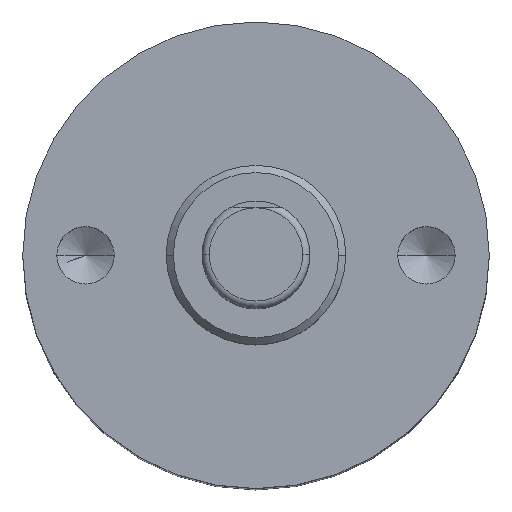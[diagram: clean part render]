
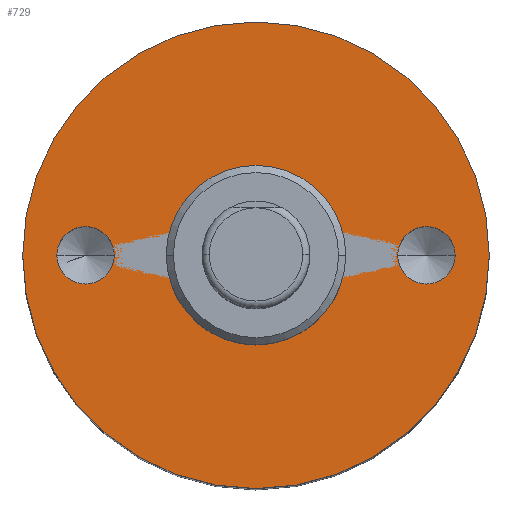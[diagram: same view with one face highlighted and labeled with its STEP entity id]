
A CAD part, top view. The second image highlights one B-rep face of the part: STEP entity #729.
In plain terms, the highlighted planar face has unit normal (0, 0, 1).
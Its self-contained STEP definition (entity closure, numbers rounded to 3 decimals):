
#3 = AXIS2_PLACEMENT_3D ( 'NONE', #1083, #34, #131 ) ;
#9 = EDGE_LOOP ( 'NONE', ( #690, #579 ) ) ;
#17 = VERTEX_POINT ( 'NONE', #270 ) ;
#34 = DIRECTION ( 'NONE',  ( 0., 0., 1. ) ) ;
#47 = AXIS2_PLACEMENT_3D ( 'NONE', #926, #946, #576 ) ;
#68 = CARTESIAN_POINT ( 'NONE',  ( 3.95, 0., -13.9 ) ) ;
#81 = DIRECTION ( 'NONE',  ( 1., 0., 0. ) ) ;
#99 = VERTEX_POINT ( 'NONE', #1051 ) ;
#121 = CIRCLE ( 'NONE', #47, 6.5 ) ;
#129 = EDGE_CURVE ( 'NONE', #1152, #415, #121, .T. ) ;
#131 = DIRECTION ( 'NONE',  ( 1., 0., 0. ) ) ;
#176 = ORIENTED_EDGE ( 'NONE', *, *, #129, .T. ) ;
#179 = ORIENTED_EDGE ( 'NONE', *, *, #1416, .F. ) ;
#195 = DIRECTION ( 'NONE',  ( 1., 0., 0. ) ) ;
#196 = ORIENTED_EDGE ( 'NONE', *, *, #248, .F. ) ;
#205 = CARTESIAN_POINT ( 'NONE',  ( 0., 0., -13.9 ) ) ;
#228 = CIRCLE ( 'NONE', #1250, 0.8 ) ;
#235 = DIRECTION ( 'NONE',  ( 1., 0., 0. ) ) ;
#248 = EDGE_CURVE ( 'NONE', #263, #406, #569, .T. ) ;
#263 = VERTEX_POINT ( 'NONE', #68 ) ;
#270 = CARTESIAN_POINT ( 'NONE',  ( -3.95, 0., -13.9 ) ) ;
#316 = DIRECTION ( 'NONE',  ( 0., 0., 1. ) ) ;
#319 = EDGE_LOOP ( 'NONE', ( #776, #1269 ) ) ;
#326 = DIRECTION ( 'NONE',  ( 0., 0., 1. ) ) ;
#402 = EDGE_CURVE ( 'NONE', #1447, #99, #1100, .T. ) ;
#406 = VERTEX_POINT ( 'NONE', #1149 ) ;
#411 = EDGE_LOOP ( 'NONE', ( #668, #176 ) ) ;
#415 = VERTEX_POINT ( 'NONE', #1498 ) ;
#452 = EDGE_CURVE ( 'NONE', #17, #1483, #792, .T. ) ;
#454 = CIRCLE ( 'NONE', #1249, 2.5 ) ;
#477 = CIRCLE ( 'NONE', #1339, 6.5 ) ;
#531 = DIRECTION ( 'NONE',  ( 1., 0., 0. ) ) ;
#539 = DIRECTION ( 'NONE',  ( 0., 0., 1. ) ) ;
#569 = CIRCLE ( 'NONE', #1042, 0.8 ) ;
#576 = DIRECTION ( 'NONE',  ( 1., 0., 0. ) ) ;
#577 = PLANE ( 'NONE',  #1434 ) ;
#579 = ORIENTED_EDGE ( 'NONE', *, *, #745, .F. ) ;
#624 = AXIS2_PLACEMENT_3D ( 'NONE', #1037, #326, #195 ) ;
#644 = CARTESIAN_POINT ( 'NONE',  ( -6.5, 0., -13.9 ) ) ;
#668 = ORIENTED_EDGE ( 'NONE', *, *, #980, .T. ) ;
#690 = ORIENTED_EDGE ( 'NONE', *, *, #452, .F. ) ;
#695 = DIRECTION ( 'NONE',  ( 0., 0., 1. ) ) ;
#729 = ADVANCED_FACE ( 'NONE', ( #813, #1299, #1155, #784 ), #577, .T. ) ;
#745 = EDGE_CURVE ( 'NONE', #1483, #17, #228, .T. ) ;
#766 = DIRECTION ( 'NONE',  ( 0., 0., 1. ) ) ;
#776 = ORIENTED_EDGE ( 'NONE', *, *, #1374, .F. ) ;
#784 = FACE_BOUND ( 'NONE', #319, .T. ) ;
#786 = DIRECTION ( 'NONE',  ( 1., 0., 0. ) ) ;
#792 = CIRCLE ( 'NONE', #1150, 0.8 ) ;
#813 = FACE_BOUND ( 'NONE', #9, .T. ) ;
#914 = CARTESIAN_POINT ( 'NONE',  ( -4.75, 0., -13.9 ) ) ;
#926 = CARTESIAN_POINT ( 'NONE',  ( 0., 0., -13.9 ) ) ;
#936 = CARTESIAN_POINT ( 'NONE',  ( -2.5, 0., -13.9 ) ) ;
#946 = DIRECTION ( 'NONE',  ( 0., 0., 1. ) ) ;
#956 = CARTESIAN_POINT ( 'NONE',  ( -5.55, 0., -13.9 ) ) ;
#980 = EDGE_CURVE ( 'NONE', #415, #1152, #477, .T. ) ;
#993 = DIRECTION ( 'NONE',  ( 0., 0., 1. ) ) ;
#1037 = CARTESIAN_POINT ( 'NONE',  ( 0., 0., -13.9 ) ) ;
#1042 = AXIS2_PLACEMENT_3D ( 'NONE', #1454, #993, #1203 ) ;
#1051 = CARTESIAN_POINT ( 'NONE',  ( 2.5, 0., -13.9 ) ) ;
#1057 = DIRECTION ( 'NONE',  ( 0., 0., 1. ) ) ;
#1083 = CARTESIAN_POINT ( 'NONE',  ( 4.75, 0., -13.9 ) ) ;
#1100 = CIRCLE ( 'NONE', #624, 2.5 ) ;
#1101 = CARTESIAN_POINT ( 'NONE',  ( 0., 0., -13.9 ) ) ;
#1133 = EDGE_LOOP ( 'NONE', ( #179, #196 ) ) ;
#1149 = CARTESIAN_POINT ( 'NONE',  ( 5.55, 0., -13.9 ) ) ;
#1150 = AXIS2_PLACEMENT_3D ( 'NONE', #1276, #766, #531 ) ;
#1152 = VERTEX_POINT ( 'NONE', #644 ) ;
#1155 = FACE_OUTER_BOUND ( 'NONE', #411, .T. ) ;
#1203 = DIRECTION ( 'NONE',  ( 1., 0., 0. ) ) ;
#1249 = AXIS2_PLACEMENT_3D ( 'NONE', #205, #316, #786 ) ;
#1250 = AXIS2_PLACEMENT_3D ( 'NONE', #914, #1057, #1502 ) ;
#1269 = ORIENTED_EDGE ( 'NONE', *, *, #402, .F. ) ;
#1273 = CARTESIAN_POINT ( 'NONE',  ( 0., -2.5, -13.9 ) ) ;
#1276 = CARTESIAN_POINT ( 'NONE',  ( -4.75, 0., -13.9 ) ) ;
#1299 = FACE_BOUND ( 'NONE', #1133, .T. ) ;
#1339 = AXIS2_PLACEMENT_3D ( 'NONE', #1101, #539, #81 ) ;
#1374 = EDGE_CURVE ( 'NONE', #99, #1447, #454, .T. ) ;
#1416 = EDGE_CURVE ( 'NONE', #406, #263, #1443, .T. ) ;
#1434 = AXIS2_PLACEMENT_3D ( 'NONE', #1273, #695, #235 ) ;
#1443 = CIRCLE ( 'NONE', #3, 0.8 ) ;
#1447 = VERTEX_POINT ( 'NONE', #936 ) ;
#1454 = CARTESIAN_POINT ( 'NONE',  ( 4.75, 0., -13.9 ) ) ;
#1483 = VERTEX_POINT ( 'NONE', #956 ) ;
#1498 = CARTESIAN_POINT ( 'NONE',  ( 6.5, 0., -13.9 ) ) ;
#1502 = DIRECTION ( 'NONE',  ( 1., 0., 0. ) ) ;
